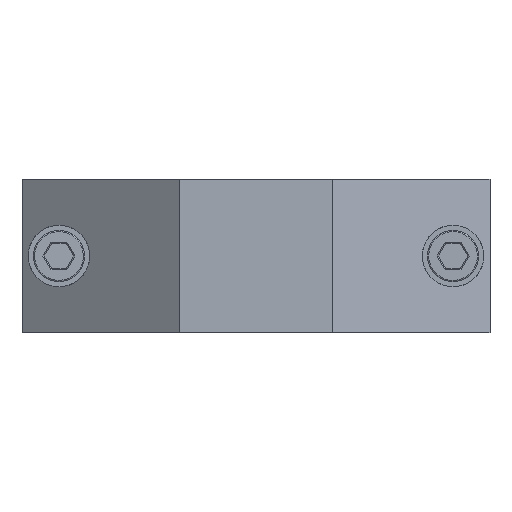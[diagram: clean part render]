
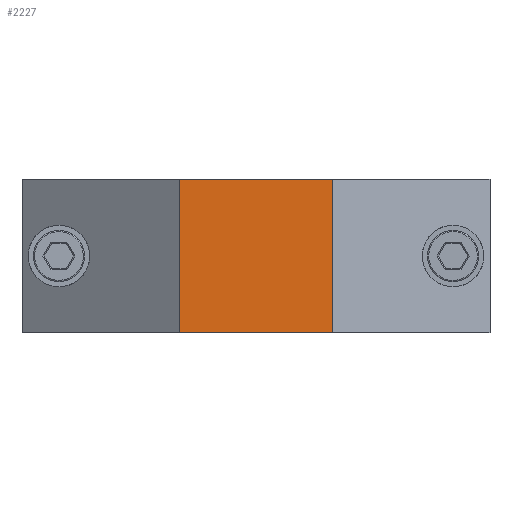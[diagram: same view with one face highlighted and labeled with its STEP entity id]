
A CAD part, left-side view. The second image highlights one B-rep face of the part: STEP entity #2227.
In plain terms, the highlighted planar face has unit normal (-1, 0, 0).
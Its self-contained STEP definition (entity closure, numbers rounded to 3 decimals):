
#182 = ORIENTED_EDGE ( 'NONE', *, *, #2602, .F. ) ;
#414 = VECTOR ( 'NONE', #1303, 1000. ) ;
#529 = LINE ( 'NONE', #1179, #414 ) ;
#574 = DIRECTION ( 'NONE',  ( 0., 0., 1. ) ) ;
#613 = EDGE_LOOP ( 'NONE', ( #1139, #182, #1037, #910 ) ) ;
#618 = CARTESIAN_POINT ( 'NONE',  ( -33., 12.5, 25. ) ) ;
#910 = ORIENTED_EDGE ( 'NONE', *, *, #2609, .T. ) ;
#938 = CARTESIAN_POINT ( 'NONE',  ( -33., 12.5, 25. ) ) ;
#953 = CARTESIAN_POINT ( 'NONE',  ( -33., 12.5, 0. ) ) ;
#968 = FACE_OUTER_BOUND ( 'NONE', #613, .T. ) ;
#978 = VERTEX_POINT ( 'NONE', #938 ) ;
#1016 = VERTEX_POINT ( 'NONE', #953 ) ;
#1037 = ORIENTED_EDGE ( 'NONE', *, *, #2509, .F. ) ;
#1056 = CARTESIAN_POINT ( 'NONE',  ( -33., -12.5, 25. ) ) ;
#1139 = ORIENTED_EDGE ( 'NONE', *, *, #1299, .T. ) ;
#1179 = CARTESIAN_POINT ( 'NONE',  ( -33., -12.5, 25. ) ) ;
#1189 = CARTESIAN_POINT ( 'NONE',  ( -33., 0., 25. ) ) ;
#1201 = VERTEX_POINT ( 'NONE', #1056 ) ;
#1249 = DIRECTION ( 'NONE',  ( 0., -1., 0. ) ) ;
#1277 = DIRECTION ( 'NONE',  ( 0., -1., 0. ) ) ;
#1290 = CARTESIAN_POINT ( 'NONE',  ( -33., 0., 0. ) ) ;
#1299 = EDGE_CURVE ( 'NONE', #1830, #1201, #529, .T. ) ;
#1303 = DIRECTION ( 'NONE',  ( 0., 0., 1. ) ) ;
#1629 = CARTESIAN_POINT ( 'NONE',  ( -33., 12.5, 25. ) ) ;
#1702 = AXIS2_PLACEMENT_3D ( 'NONE', #1629, #1987, #1860 ) ;
#1778 = PLANE ( 'NONE',  #1702 ) ;
#1830 = VERTEX_POINT ( 'NONE', #1851 ) ;
#1851 = CARTESIAN_POINT ( 'NONE',  ( -33., -12.5, 0. ) ) ;
#1858 = VECTOR ( 'NONE', #574, 1000. ) ;
#1860 = DIRECTION ( 'NONE',  ( 0., 1., 0. ) ) ;
#1889 = LINE ( 'NONE', #618, #1858 ) ;
#1987 = DIRECTION ( 'NONE',  ( 1., 0., 0. ) ) ;
#2227 = ADVANCED_FACE ( 'NONE', ( #968 ), #1778, .F. ) ;
#2334 = VECTOR ( 'NONE', #1249, 1000. ) ;
#2381 = LINE ( 'NONE', #1189, #2334 ) ;
#2432 = VECTOR ( 'NONE', #1277, 1000. ) ;
#2476 = LINE ( 'NONE', #1290, #2432 ) ;
#2509 = EDGE_CURVE ( 'NONE', #1016, #978, #1889, .T. ) ;
#2602 = EDGE_CURVE ( 'NONE', #978, #1201, #2381, .T. ) ;
#2609 = EDGE_CURVE ( 'NONE', #1016, #1830, #2476, .T. ) ;
